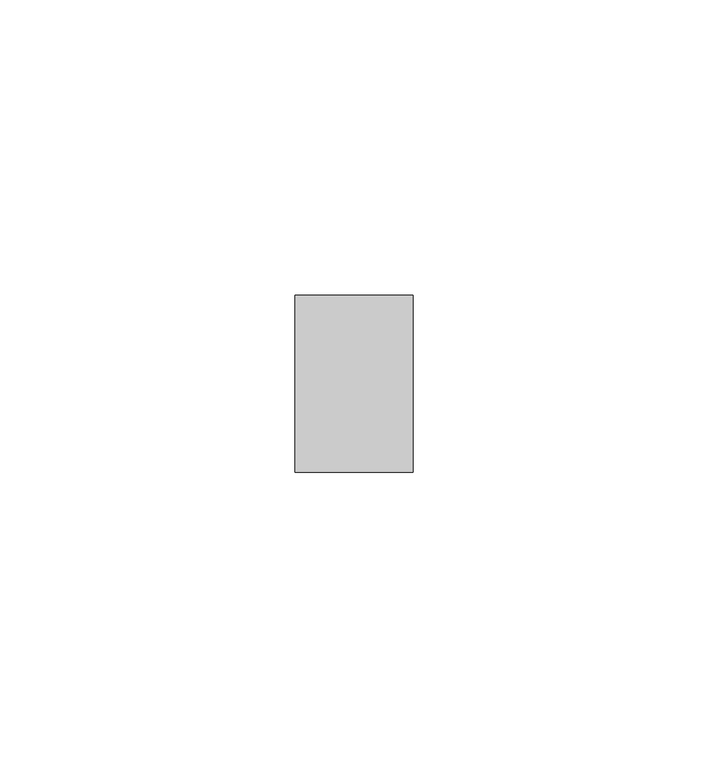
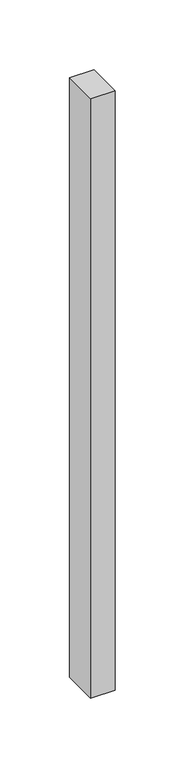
"""IFC4 building model written with IfcOpenShell, lengths in millimetres: member geometry, Прямоугольный импост : Квадрат 10 мм - Зазор между навесными плитами."""

import ifcopenshell
import ifcopenshell.guid

model = None  # the IFC model being written
_history = None  # IfcOwnerHistory: only IFC2X3 demands one
_inside = {}  # id of a spatial element -> (the spatial element, [elements in it])
_under = {}  # id of a project, library or spatial element -> (it, [spatial elements below it])
_declared = {}  # id of a project -> (the project, [libraries it declares])
_typed = {}  # id of a type object -> (the type object, [elements of that type])
_made_of = {}  # id of a material, layer set ... -> (it, [elements and type objects made of it])


def new_model(schema):
    """Start an empty IFC model of exactly this schema.

    Asked for "IFC4X3", IfcOpenShell would pick the latest addendum, in which some entities
    have other attributes; the version numbers below select the first issue.
    IFC2X3 requires an IfcOwnerHistory on every rooted entity: one is made here for all.
    """
    global model, _history
    if schema == "IFC4X3":
        model = ifcopenshell.file(schema_version=(4, 3, 0, 0))
    else:
        model = ifcopenshell.file(schema=schema)
    _inside.clear()
    _under.clear()
    _declared.clear()
    _typed.clear()
    _made_of.clear()
    _history = None
    if model.schema == "IFC2X3":
        org = make("IfcOrganization", Name="unknown")
        user = make(
            "IfcPersonAndOrganization",
            ThePerson=make("IfcPerson", FamilyName="unknown"),
            TheOrganization=org,
        )
        app = make(
            "IfcApplication",
            ApplicationDeveloper=org,
            Version="unknown",
            ApplicationFullName="unknown",
            ApplicationIdentifier="unknown",
        )
        _history = make(
            "IfcOwnerHistory",
            OwningUser=user,
            OwningApplication=app,
            ChangeAction="ADDED",
            CreationDate=0,
        )
    return model


def make(cls, **values):
    """One entity of the class cls with the attributes given. An attribute that is None is left unset."""
    return model.create_entity(
        cls, **{name: value for name, value in values.items() if value is not None}
    )


def rooted(cls, **values):
    """An entity with a GlobalId (a new one), such as an element, a storey or a relation."""
    return make(cls, GlobalId=ifcopenshell.guid.new(), OwnerHistory=_history, **values)


def si_unit(unit_type, name, prefix=None):
    """IfcSIUnit, for example si_unit("LENGTHUNIT", "METRE", prefix="MILLI")."""
    return make("IfcSIUnit", UnitType=unit_type, Prefix=prefix, Name=name)


def assignment(units):
    """IfcUnitAssignment: the units of a project."""
    return None if units is None else make("IfcUnitAssignment", Units=units)


def point(xyz):
    """IfcCartesianPoint."""
    return None if xyz is None else make("IfcCartesianPoint", Coordinates=xyz)


def direction(xyz):
    """IfcDirection."""
    return None if xyz is None else make("IfcDirection", DirectionRatios=xyz)


def frame(location, z_axis=None, x_axis=None):
    """IfcAxis2Placement3D, a coordinate frame: its origin and axes. An axis left out is left unset."""
    return make(
        "IfcAxis2Placement3D",
        Location=point(location),
        Axis=direction(z_axis),
        RefDirection=direction(x_axis),
    )


def origin():
    """The frame at (0, 0, 0) with its axes left unset."""
    return frame((0.0, 0.0, 0.0))


def place(relative_to, where):
    """IfcLocalPlacement: puts the frame where relative to a parent placement (None: the world)."""
    return make(
        "IfcLocalPlacement", PlacementRelTo=relative_to, RelativePlacement=where
    )


def context(
    kind, dimensions, precision=None, world=None, true_north=None, identifier=None
):
    """IfcGeometricRepresentationContext, for example the 3D "Model" context."""
    return make(
        "IfcGeometricRepresentationContext",
        ContextIdentifier=identifier,
        ContextType=kind,
        CoordinateSpaceDimension=dimensions,
        Precision=precision,
        WorldCoordinateSystem=world,
        TrueNorth=true_north,
    )


def project(units=None, contexts=None):
    """IfcProject with its units and contexts."""
    return rooted(
        "IfcProject",
        Name="project",
        RepresentationContexts=contexts,
        UnitsInContext=assignment(units),
    )


def spatial(cls, under=None, at=None, **own):
    """A site, building, storey or space (cls), placed at a placement, below another one or the project."""
    s = rooted(cls, ObjectPlacement=at, **own)
    if under is not None:
        _under.setdefault(under.id(), (under, []))[1].append(s)
    return s


def polyline(points):
    """IfcPolyline through the points."""
    return make("IfcPolyline", Points=[point(p) for p in points])


def outline(outer, holes=None, kind="AREA"):
    """IfcArbitraryClosedProfileDef: a profile drawn as a closed curve; with holes, ...WithVoids."""
    if holes is None:
        return make("IfcArbitraryClosedProfileDef", ProfileType=kind, OuterCurve=outer)
    return make(
        "IfcArbitraryProfileDefWithVoids",
        ProfileType=kind,
        OuterCurve=outer,
        InnerCurves=holes,
    )


def extrude(swept, where, along, depth):
    """IfcExtrudedAreaSolid: the profile swept, set in the frame where, extruded along a direction by depth."""
    return make(
        "IfcExtrudedAreaSolid",
        SweptArea=swept,
        Position=where,
        ExtrudedDirection=direction(along),
        Depth=depth,
    )


def shape(context_of_items, identifier, shape_type, items):
    """IfcShapeRepresentation: the items that make up one representation, for example the "Body"."""
    return make(
        "IfcShapeRepresentation",
        ContextOfItems=context_of_items,
        RepresentationIdentifier=identifier,
        RepresentationType=shape_type,
        Items=items,
    )


def source(mapping_origin, context_of_items, identifier, shape_type, items):
    """IfcRepresentationMap: a shape defined once, which mapped items show again and again."""
    return make(
        "IfcRepresentationMap",
        MappingOrigin=mapping_origin,
        MappedRepresentation=shape(context_of_items, identifier, shape_type, items),
    )


def transform(
    local_origin,
    x_axis=None,
    y_axis=None,
    z_axis=None,
    scale=None,
    scale2=None,
    scale3=None,
    uniform=True,
):
    """IfcCartesianTransformationOperator3D, or its non-uniform kind. x_axis, y_axis, z_axis: its Axis1, 2, 3."""
    if uniform:
        return make(
            "IfcCartesianTransformationOperator3D",
            Axis1=direction(x_axis),
            Axis2=direction(y_axis),
            LocalOrigin=point(local_origin),
            Scale=scale,
            Axis3=direction(z_axis),
        )
    return make(
        "IfcCartesianTransformationOperator3DnonUniform",
        Axis1=direction(x_axis),
        Axis2=direction(y_axis),
        LocalOrigin=point(local_origin),
        Scale=scale,
        Axis3=direction(z_axis),
        Scale2=scale2,
        Scale3=scale3,
    )


def mapped(mapping_source, mapping_target):
    """IfcMappedItem: shows the shape of a source again, moved by a transform."""
    return make(
        "IfcMappedItem", MappingSource=mapping_source, MappingTarget=mapping_target
    )


def made_of(thing, what):
    """Note that an element or type object is made of a material, layer set ...; save() writes the relation."""
    if what is not None:
        _made_of.setdefault(what.id(), (what, []))[1].append(thing)
    return thing


def element(
    cls,
    number,
    at=None,
    inside=None,
    cuts=None,
    type_object=None,
    material=None,
    context=None,
    identifier="Body",
    shape_type=None,
    held_by="IfcProductDefinitionShape",
    body=None,
    shapes=None,
    **own,
):
    """One element of the class cls, such as IfcWall. Its Tag is "e" and its number.

    at: its placement. inside: the storey or other place that contains it. cuts: it is an
    opening in that element (IfcRelVoidsElement). A single representation is given by context,
    identifier, shape_type and body (its items); several are given by shapes. held_by: the class
    of the entity that holds the representations. save() writes the other relations.
    """
    e = rooted(cls, Tag="e%d" % number, ObjectPlacement=at, **own)
    if body is not None:
        shapes = [shape(context, identifier, shape_type, body)]
    if shapes is not None:
        e.Representation = make(held_by, Representations=shapes)
    if inside is not None:
        _inside.setdefault(inside.id(), (inside, []))[1].append(e)
    if cuts is not None:
        rooted(
            "IfcRelVoidsElement", RelatingBuildingElement=cuts, RelatedOpeningElement=e
        )
    if type_object is not None:
        _typed.setdefault(type_object.id(), (type_object, []))[1].append(e)
    return made_of(e, material)


def aggregate(whole, parts):
    """IfcRelAggregates: a whole, such as a stair, and the parts it consists of."""
    return rooted("IfcRelAggregates", RelatingObject=whole, RelatedObjects=parts)


def save(model, path):
    """Write the relations noted so far, then the file.

    IfcRelAggregates (storeys below a building ...), IfcRelContainedInSpatialStructure (elements
    in a storey), IfcRelDefinesByType, IfcRelAssociatesMaterial and IfcRelDeclares: one each for
    every whole, place, type object, material and project.
    """
    for whole, parts in _under.values():
        aggregate(whole, parts)
    for where, things in _inside.values():
        rooted(
            "IfcRelContainedInSpatialStructure",
            RelatedElements=things,
            RelatingStructure=where,
        )
    for kind, things in _typed.values():
        rooted("IfcRelDefinesByType", RelatedObjects=things, RelatingType=kind)
    for what, things in _made_of.values():
        rooted("IfcRelAssociatesMaterial", RelatedObjects=things, RelatingMaterial=what)
    for by, libraries in _declared.values():
        rooted("IfcRelDeclares", RelatingContext=by, RelatedDefinitions=libraries)
    model.write(path)


def member_c22861fa(model_context):
    return source(origin(), model_context, "Body", "SweptSolid", [
        extrude(outline(polyline([(10.0, 15.0), (10.0, -15.0), (-10.0, -15.0), (-10.0, 15.0), (10.0, 15.0)])), frame((0.0, 0.0, -523.2685202), z_axis=(0.0, 0.0, 1.0), x_axis=(1.0, 0.0, 0.0)), (0.0, 0.0, 1.0), 523.2685202),
    ])


if __name__ == "__main__":
    model = new_model("IFC4")
    model_context = context("Model", 3, world=origin())
    ifc_project = project(units=[si_unit("LENGTHUNIT", "METRE", prefix="MILLI")], contexts=[model_context])
    site = spatial("IfcSite", under=ifc_project)
    building = spatial("IfcBuilding", under=site)
    placement = place(None, origin())
    member_shape = member_c22861fa(model_context)
    element("IfcMember", 1, ObjectType="Прямоугольный импост : Квадрат 10 мм - Зазор между навесными плитами", at=placement, inside=building, context=model_context, shape_type="MappedRepresentation", body=[
        mapped(member_shape, transform((0.0, 0.0, 0.0), x_axis=(1.0, 0.0, 0.0), y_axis=(0.0, 1.0, 0.0), z_axis=(0.0, 0.0, 1.0))),
    ])
    save(model, "model.ifc")
